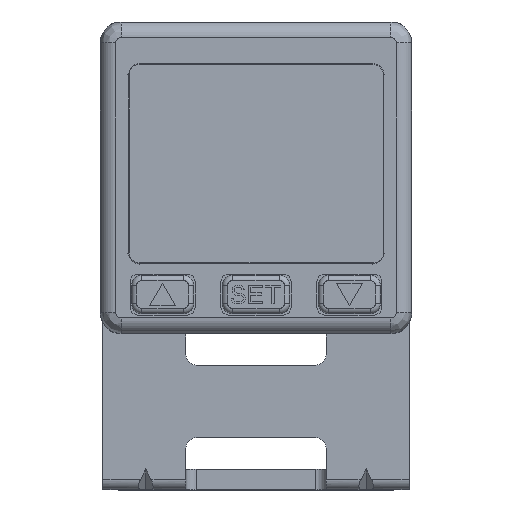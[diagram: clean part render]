
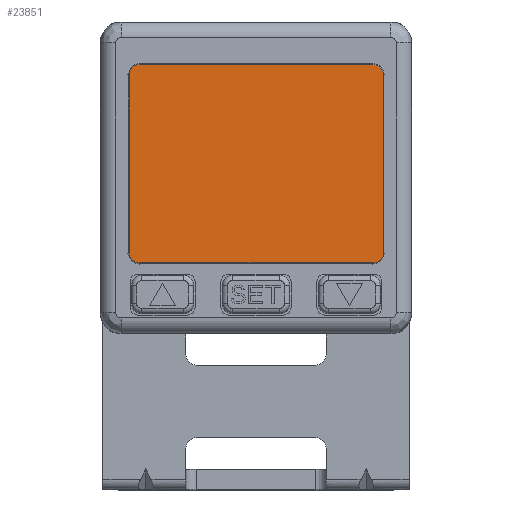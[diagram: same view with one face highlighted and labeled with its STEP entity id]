
A CAD part, top view. The second image highlights one B-rep face of the part: STEP entity #23851.
In plain terms, the highlighted planar face has unit normal (0, 0, 1).
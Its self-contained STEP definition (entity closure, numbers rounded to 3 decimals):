
#2690=CARTESIAN_POINT('',(11.25,10.992,24.97));
#2691=CARTESIAN_POINT('',(11.458,10.992,24.97));
#2692=CARTESIAN_POINT('',(11.812,10.883,24.97));
#2693=CARTESIAN_POINT('',(12.085,10.634,24.97));
#2694=CARTESIAN_POINT('',(12.191,10.454,24.97));
#2696=CARTESIAN_POINT('',(11.3,10.,24.97));
#2697=DIRECTION('',(0.,0.,1.));
#2698=DIRECTION('',(1.,0.,0.));
#2699=AXIS2_PLACEMENT_3D('',#2696,#2697,#2698);
#2701=DIRECTION('',(0.,1.,0.));
#2702=VECTOR('',#2701,17.2);
#2703=CARTESIAN_POINT('',(12.3,-7.2,24.97));
#2704=LINE('',#2703,#2702);
#2705=CARTESIAN_POINT('',(11.3,-7.2,24.97));
#2706=DIRECTION('',(0.,0.,1.));
#2707=DIRECTION('',(0.,-1.,0.));
#2708=AXIS2_PLACEMENT_3D('',#2705,#2706,#2707);
#2710=DIRECTION('',(1.,0.,0.));
#2711=VECTOR('',#2710,22.5);
#2712=CARTESIAN_POINT('',(-11.2,-8.2,24.97));
#2713=LINE('',#2712,#2711);
#2714=CARTESIAN_POINT('',(-11.2,-7.2,24.97));
#2715=DIRECTION('',(0.,0.,1.));
#2716=DIRECTION('',(-1.,0.,0.));
#2717=AXIS2_PLACEMENT_3D('',#2714,#2715,#2716);
#2719=DIRECTION('',(0.,-1.,0.));
#2720=VECTOR('',#2719,17.2);
#2721=CARTESIAN_POINT('',(-12.2,10.,24.97));
#2722=LINE('',#2721,#2720);
#2723=CARTESIAN_POINT('',(-11.2,10.,24.97));
#2724=DIRECTION('',(0.,0.,1.));
#2725=DIRECTION('',(-0.171,0.985,0.));
#2726=AXIS2_PLACEMENT_3D('',#2723,#2724,#2725);
#2728=CARTESIAN_POINT('',(-11.371,10.985,24.97));
#2729=CARTESIAN_POINT('',(-11.331,10.99,24.97));
#2730=CARTESIAN_POINT('',(-11.29,10.992,24.97));
#2731=CARTESIAN_POINT('',(-11.25,10.992,24.97));
#2733=DIRECTION('',(-1.,0.,0.));
#2734=VECTOR('',#2733,22.5);
#2735=CARTESIAN_POINT('',(11.25,10.992,24.97));
#2736=LINE('',#2735,#2734);
#16274=CARTESIAN_POINT('',(-12.2,10.,24.97));
#16275=CARTESIAN_POINT('',(-12.2,-7.2,24.97));
#16276=VERTEX_POINT('',#16274);
#16277=VERTEX_POINT('',#16275);
#16278=CARTESIAN_POINT('',(-11.2,-8.2,24.97));
#16279=VERTEX_POINT('',#16278);
#16280=CARTESIAN_POINT('',(11.3,-8.2,24.97));
#16281=VERTEX_POINT('',#16280);
#16282=CARTESIAN_POINT('',(12.3,-7.2,24.97));
#16283=VERTEX_POINT('',#16282);
#16284=CARTESIAN_POINT('',(12.3,10.,24.97));
#16285=VERTEX_POINT('',#16284);
#17522=VERTEX_POINT('',#2690);
#17523=VERTEX_POINT('',#2694);
#17524=CARTESIAN_POINT('',(-11.25,10.992,24.97));
#17525=VERTEX_POINT('',#17524);
#17526=VERTEX_POINT('',#2728);
#23826=CARTESIAN_POINT('',(0.05,2.6,24.97));
#23827=DIRECTION('',(0.,0.,1.));
#23828=DIRECTION('',(1.,0.,0.));
#23829=AXIS2_PLACEMENT_3D('',#23826,#23827,#23828);
#23830=PLANE('',#23829);
#23831=ORIENTED_EDGE('',*,*,#23814,.T.);
#23832=ORIENTED_EDGE('',*,*,#23780,.F.);
#23834=ORIENTED_EDGE('',*,*,#23833,.F.);
#23836=ORIENTED_EDGE('',*,*,#23835,.F.);
#23838=ORIENTED_EDGE('',*,*,#23837,.F.);
#23840=ORIENTED_EDGE('',*,*,#23839,.F.);
#23842=ORIENTED_EDGE('',*,*,#23841,.F.);
#23844=ORIENTED_EDGE('',*,*,#23843,.F.);
#23846=ORIENTED_EDGE('',*,*,#23845,.T.);
#23848=ORIENTED_EDGE('',*,*,#23847,.F.);
#23849=EDGE_LOOP('',(#23831,#23832,#23834,#23836,#23838,#23840,#23842,#23844,
#23846,#23848));
#23850=FACE_OUTER_BOUND('',#23849,.F.);
#23851=ADVANCED_FACE('',(#23850),#23830,.T.);
#2695=B_SPLINE_CURVE_WITH_KNOTS('',3,(#2690,#2691,#2692,#2693,#2694),
.UNSPECIFIED.,.F.,.F.,(4,1,4),(0.,0.5,1.),.UNSPECIFIED.);
#2700=CIRCLE('',#2699,1.);
#2709=CIRCLE('',#2708,1.);
#2718=CIRCLE('',#2717,1.);
#2727=CIRCLE('',#2726,1.);
#2732=B_SPLINE_CURVE_WITH_KNOTS('',3,(#2728,#2729,#2730,#2731),.UNSPECIFIED.,
.F.,.F.,(4,4),(0.,1.),.UNSPECIFIED.);
#23780=EDGE_CURVE('',#16285,#17523,#2700,.T.);
#23814=EDGE_CURVE('',#17522,#17523,#2695,.T.);
#23833=EDGE_CURVE('',#16283,#16285,#2704,.T.);
#23835=EDGE_CURVE('',#16281,#16283,#2709,.T.);
#23837=EDGE_CURVE('',#16279,#16281,#2713,.T.);
#23839=EDGE_CURVE('',#16277,#16279,#2718,.T.);
#23841=EDGE_CURVE('',#16276,#16277,#2722,.T.);
#23843=EDGE_CURVE('',#17526,#16276,#2727,.T.);
#23845=EDGE_CURVE('',#17526,#17525,#2732,.T.);
#23847=EDGE_CURVE('',#17522,#17525,#2736,.T.);
